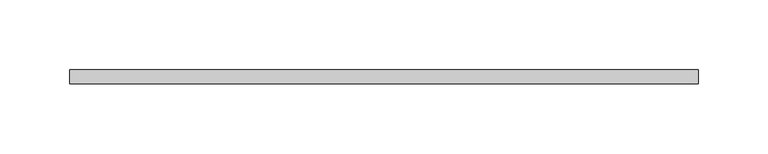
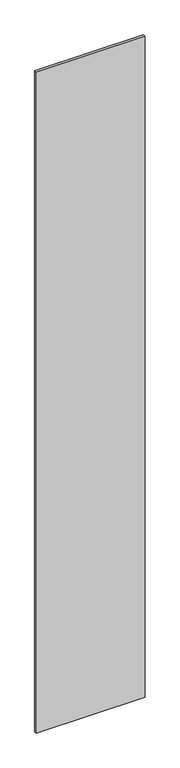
"""IFC4 building model written with IfcOpenShell, lengths in millimetres: plate geometry, システム パネル : 標準."""

from ifc_helpers import new_model, si_unit, origin, origin_with_axes, place, context, project, spatial, polyline, outline, extrude, source, transform, mapped, element, save


def plate_de90d239(model_context):
    return source(origin(), model_context, "Body", "SweptSolid", [
        extrude(outline(polyline([(225.5659815, -5.0), (-225.5659815, -5.0), (-225.5659815, 5.0), (225.5659815, 5.0), (225.5659815, -5.0)])), origin_with_axes(), (0.0, 0.0, 1.0), 2895.0),
    ])


if __name__ == "__main__":
    model = new_model("IFC4")
    model_context = context("Model", 3, world=origin())
    ifc_project = project(units=[si_unit("LENGTHUNIT", "METRE", prefix="MILLI")], contexts=[model_context])
    site = spatial("IfcSite", under=ifc_project)
    building = spatial("IfcBuilding", under=site)
    placement = place(None, origin())
    plate_shape = plate_de90d239(model_context)
    element("IfcPlate", 1, ObjectType="システム パネル : 標準", at=placement, inside=building, context=model_context, shape_type="MappedRepresentation", body=[
        mapped(plate_shape, transform((0.0, 0.0, 0.0), x_axis=(1.0, 0.0, 0.0), y_axis=(0.0, 1.0, 0.0), z_axis=(0.0, 0.0, 1.0))),
    ])
    save(model, "model.ifc")
